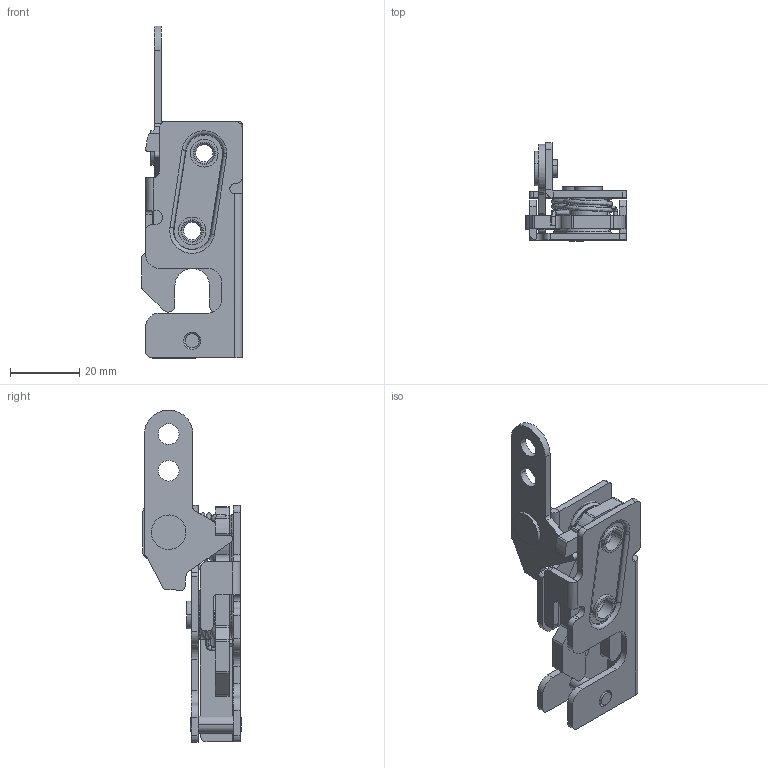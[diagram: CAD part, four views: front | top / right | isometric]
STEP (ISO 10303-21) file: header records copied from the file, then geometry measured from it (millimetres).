
FILE_DESCRIPTION (( 'STEP AP203' ), '1' );
FILE_NAME ('DK618F3D000007.STEP', '2016-07-11T02:15:55', ( 'master' ), ( 'Microsoft' ), 'SwSTEP 2.0', 'SolidWorks 2014', '' );
FILE_SCHEMA (( 'CONFIG_CONTROL_DESIGN' ));
Length unit declared in the file: millimetre
Products named in the file (11): 8SJ.DK618-6.0570种赽; 8SJ.DK618-6.0580穩隊; 8SJ.DK618-6.0240坶啣; 8SJ.DK618-6.0581穩隊2; 8SJ.DK618-6-Z.0200裔啣; 8SJ.DK618-7.0340嶺裝; 8SJ.DK618-6-Z.0220菁啣; DK618F3D000007; 8SJ.DK618-6.0170結啣; 8SJ.DK618-1-Z.0720扭簧1（安装）; 8SJ.DK618-1-Z.0720扭簧2（安装）
Assembly tree (11 placements, depth 2):
  DK618F3D000007
    8SJ.DK618-6-Z.0200裔啣
    8SJ.DK618-6-Z.0220菁啣
    8SJ.DK618-6.0170結啣
    8SJ.DK618-1-Z.0720扭簧1（安装）
    8SJ.DK618-1-Z.0720扭簧2（安装）
    8SJ.DK618-6.0570种赽
    8SJ.DK618-6.0580穩隊  x2
    8SJ.DK618-6.0240坶啣
    8SJ.DK618-6.0581穩隊2
    8SJ.DK618-7.0340嶺裝
Bounding box: 29.1 x 28.5 x 96.15 mm (x, y, z)
Volume: 14156.1 mm3; surface area: 16698 mm2
Topology: 11 solids, 11 shells, 333 faces, 827 edges, 530 vertices
Faces by surface type: cylinder 176, plane 106, bspline 23, cone 14, torus 14
Entity records: 31915 total; most frequent: CARTESIAN_POINT 23060, DIRECTION 1727, ORIENTED_EDGE 1550, EDGE_CURVE 775, AXIS2_PLACEMENT_3D 682, VERTEX_POINT 498, CIRCLE 383, LINE 363
